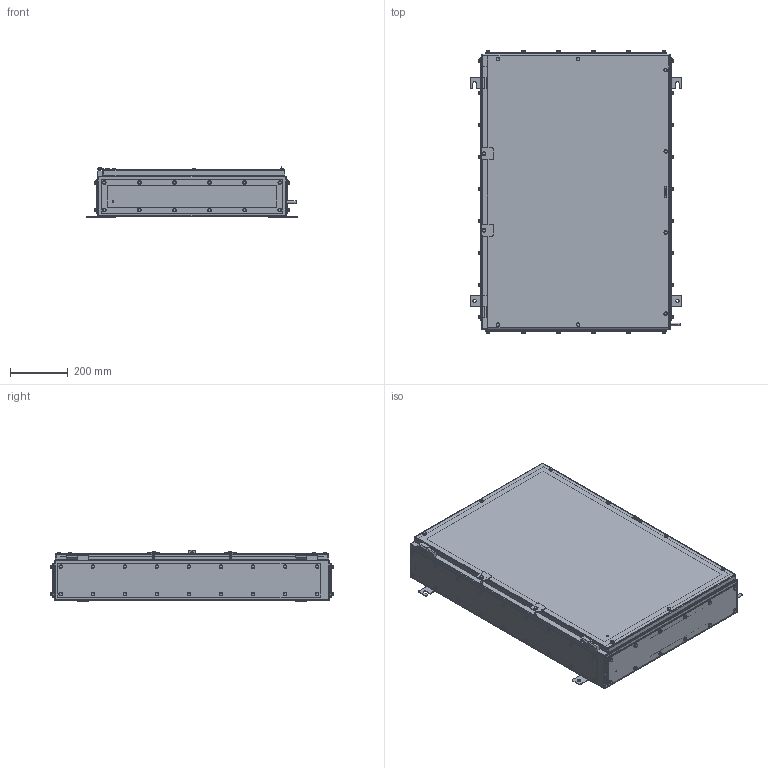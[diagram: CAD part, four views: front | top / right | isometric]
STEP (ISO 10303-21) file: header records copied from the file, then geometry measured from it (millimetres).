
FILE_DESCRIPTION (( 'STEP AP203' ), '1' );
FILE_NAME ('SX7_140_4GP.STEP', '2021-05-20T07:35:34', ( '' ), ( '' ), 'SwSTEP 2.0', 'SolidWorks 2020', '' );
FILE_SCHEMA (( 'CONFIG_CONTROL_DESIGN' ));
Length unit declared in the file: millimetre
Products named in the file (12): SX7-140 side Gland plate; hex screw gradec_bsi_BS EN 24018 - M6 x 20-WN; hex screw gradec_iso_ISO 4018 - M6 x 30-WN; hex screw gradec_bsi_BS EN 24018 - M6 x 16-WN; SX7-140 Base Gland plate; SX7 Door; SX7 Door Gasket; SX7_140_4GP; plain washer form a_bsi_Bright washer BS 4320 - M6 (Form A); SX7_140_4GP Body; SX7-140 side Gasket; SX7-140 Base Gasket
Assembly tree (151 placements, depth 2):
  SX7_140_4GP
    SX7_140_4GP Body
    SX7-140 Base Gasket  x2
    SX7-140 side Gasket  x2
    SX7-140 side Gland plate  x2
    SX7-140 Base Gland plate  x2
    hex screw gradec_bsi_BS EN 24018 - M6 x 16-WN  x60
    plain washer form a_bsi_Bright washer BS 4320 - M6 (Form A)  x70
    SX7 Door
    hex screw gradec_bsi_BS EN 24018 - M6 x 20-WN  x8
    hex screw gradec_iso_ISO 4018 - M6 x 30-WN  x2
    SX7 Door Gasket
Bounding box: 730 x 973.95 x 176 mm (x, y, z)
Volume: 5263847.8 mm3; surface area: 4573632.4 mm2
Topology: 151 solids, 151 shells, 3530 faces, 7670 edges, 4632 vertices
Faces by surface type: plane 1590, cylinder 1304, cone 572, sphere 56, torus 8
Entity records: 38534 total; most frequent: DIRECTION 6488, CARTESIAN_POINT 5713, ORIENTED_EDGE 5180, AXIS2_PLACEMENT_3D 2631, EDGE_CURVE 2590, VERTEX_POINT 1640, EDGE_LOOP 1490, CIRCLE 1328
